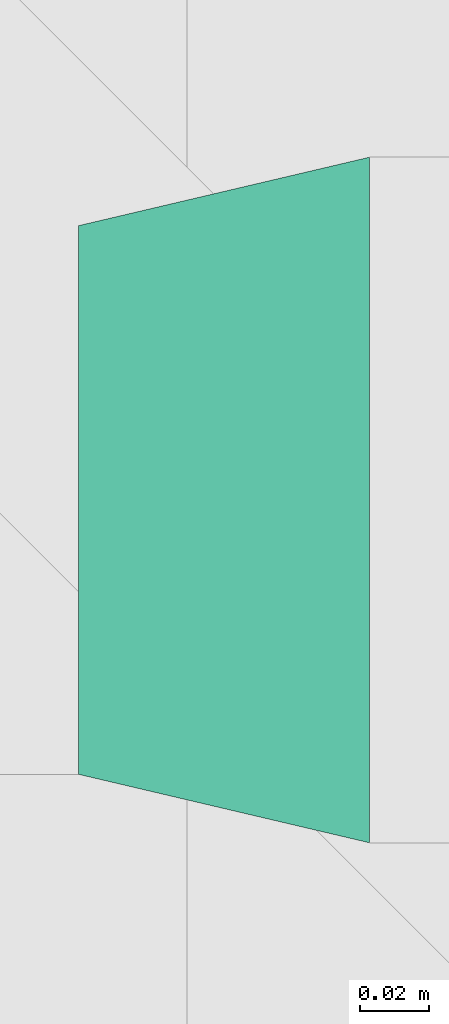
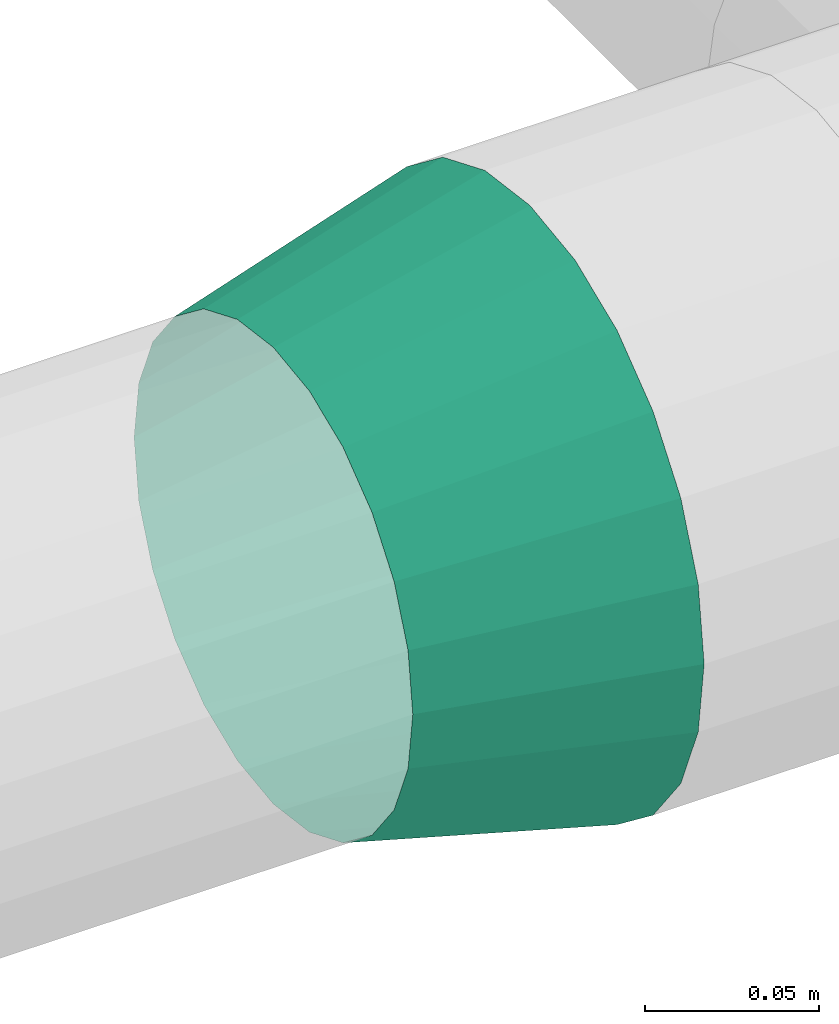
# One storey, part 168 of 374: 1 flow fitting.
"""IFC2X3 building model written with IfcOpenShell, lengths in metres."""

from ifc_helpers import new_model, si_unit, direction, origin, place, context, subcontext, project, spatial, open_shell, surface_model, source, transform, mapped, element, save


model = new_model("IFC2X3")

# Units and contexts
model_context = context("Model", 3, precision=1e-05, world=origin(), true_north=direction((-0.4480736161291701, 0.8939966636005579)))
body_context = subcontext(model_context, "Body", "Model", "MODEL_VIEW")
ifc_project = project(units=[si_unit("LENGTHUNIT", "METRE"), si_unit("AREAUNIT", "SQUARE_METRE"), si_unit("VOLUMEUNIT", "CUBIC_METRE"), si_unit("PLANEANGLEUNIT", "RADIAN"), si_unit("THERMODYNAMICTEMPERATUREUNIT", "KELVIN"), si_unit("MASSUNIT", "GRAM", prefix="KILO"), si_unit("TIMEUNIT", "SECOND")], contexts=[model_context])

# Site, building, storey
site_placement = place(None, origin())
site = spatial("IfcSite", under=ifc_project, at=site_placement, Name="Site 1", CompositionType="ELEMENT")
building_placement = place(site_placement, origin())
building = spatial("IfcBuilding", under=site, at=building_placement, Name="Undefined", CompositionType="ELEMENT")
storey_placement = place(building_placement, origin())
storey = spatial("IfcBuildingStorey", under=building, at=storey_placement, Name="Rez de chauss\x8ee", CompositionType="ELEMENT", Elevation=0.0)

# Flow fitting
shared_shape = source(origin(), body_context, "Body", "SurfaceModel", [
    surface_model("IfcFaceBasedSurfaceModel", [(0.08732124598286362, 1.776356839e-15, 7.105427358e-15), (0.0865408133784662, 0.026093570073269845, -1.4210854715e-14), (-0.0006243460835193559, 0.020874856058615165, 0.0), (0.0, 0.0, 0.0), (0.08425270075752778, 0.05125213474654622, -0.006579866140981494), (-0.002454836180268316, 0.041001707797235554, -0.0052638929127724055), (0.08061283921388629, 0.07376117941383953, -0.019291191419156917), (-0.005366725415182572, 0.05900894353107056, -0.015432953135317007), (0.07586927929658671, 0.09208674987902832, -0.03726772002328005), (-0.00916157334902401, 0.0736693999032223, -0.029814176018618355), (0.07034528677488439, 0.10497998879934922, -0.0592843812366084), (-0.013580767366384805, 0.08398399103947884, -0.04742750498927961), (0.06441731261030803, 0.11156224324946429, -0.08384077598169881), (-0.018323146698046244, 0.08924979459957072, -0.06707262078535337), (0.0584893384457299, 0.11138494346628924, -0.10926342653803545), (-0.023065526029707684, 0.08910795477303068, -0.08741074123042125), (0.05296534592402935, 0.1044601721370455, -0.13381982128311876), (-0.027484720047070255, 0.08356813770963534, -0.1070558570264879), (0.048221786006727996, 0.09125984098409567, -0.15583648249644), (-0.03127956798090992, 0.07300787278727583, -0.12466918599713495), (0.04458192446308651, 0.07268353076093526, -0.17381301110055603), (-0.034191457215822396, 0.058146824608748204, -0.1390504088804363), (0.042293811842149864, 0.04999718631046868, -0.18652433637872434), (-0.03602194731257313, 0.039997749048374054, -0.1492194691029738), (0.04151337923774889, 0.024746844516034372, -0.19310420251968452), (-0.03664629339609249, 0.019797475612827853, -0.1544833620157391), (0.042293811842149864, -0.0013467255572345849, -0.19310420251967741), (-0.03602194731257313, -0.0010773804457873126, -0.1544833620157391), (0.04458192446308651, -0.026505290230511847, -0.18652433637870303), (-0.034191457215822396, -0.021204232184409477, -0.14921946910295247), (0.048221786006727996, -0.049014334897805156, -0.1738130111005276), (-0.03127956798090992, -0.03921146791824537, -0.13905040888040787), (0.05296534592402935, -0.06733990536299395, -0.15583648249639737), (-0.027484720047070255, -0.05387192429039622, -0.12466918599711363), (0.0584893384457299, -0.08023314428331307, -0.13381982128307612), (-0.023065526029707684, -0.06418651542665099, -0.10705585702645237), (0.06441731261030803, -0.08681539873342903, -0.10926342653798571), (-0.018323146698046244, -0.06945231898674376, -0.08741074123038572), (0.07034528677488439, -0.0866380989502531, -0.08384077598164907), (-0.013580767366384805, -0.06931047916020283, -0.06707262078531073), (0.07586927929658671, -0.07971332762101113, -0.05928438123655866), (-0.00916157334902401, -0.06377066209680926, -0.047427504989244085), (0.08061283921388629, -0.0665129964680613, -0.03726772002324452), (-0.005366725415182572, -0.05321039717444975, -0.029814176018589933), (0.08425270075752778, -0.047936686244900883, -0.019291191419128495), (-0.002454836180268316, -0.03834934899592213, -0.015432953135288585), (0.0865408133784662, -0.02525034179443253, -0.006579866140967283), (-0.0006243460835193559, -0.0202002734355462, -0.0052638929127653)], [open_shell([[[0, 1, 2, 3]], [[1, 4, 5, 2]], [[4, 6, 7, 5]], [[6, 8, 9, 7]], [[8, 10, 11, 9]], [[10, 12, 13, 11]], [[12, 14, 15, 13]], [[14, 16, 17, 15]], [[16, 18, 19, 17]], [[18, 20, 21, 19]], [[20, 22, 23, 21]], [[22, 24, 25, 23]], [[24, 26, 27, 25]], [[26, 28, 29, 27]], [[28, 30, 31, 29]], [[30, 32, 33, 31]], [[32, 34, 35, 33]], [[34, 36, 37, 35]], [[36, 38, 39, 37]], [[38, 40, 41, 39]], [[40, 42, 43, 41]], [[42, 44, 45, 43]], [[44, 46, 47, 45]], [[46, 0, 3, 47]]])]),
])
flow_fitting_placement = place(storey_placement, origin())
element("IfcFlowFitting", 1, at=flow_fitting_placement, inside=storey, Name="Réduction conique", ObjectType="Réduction conique", context=body_context, shape_type="MappedRepresentation", body=[
    mapped(shared_shape, transform((55.97924017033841, 16.034998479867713, 3.8000000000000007), x_axis=(0.9734171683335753, 0.22903933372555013, 0.0), y_axis=(0.029113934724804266, -0.12373422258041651, -0.9918882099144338), z_axis=(-0.22718141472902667, 0.9655210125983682, -0.12711325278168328))),
])

save(model, "model.ifc")
